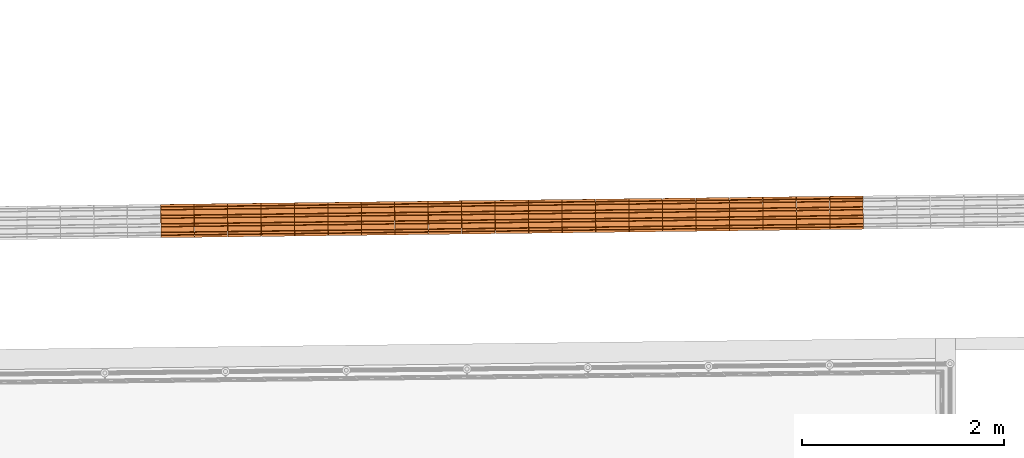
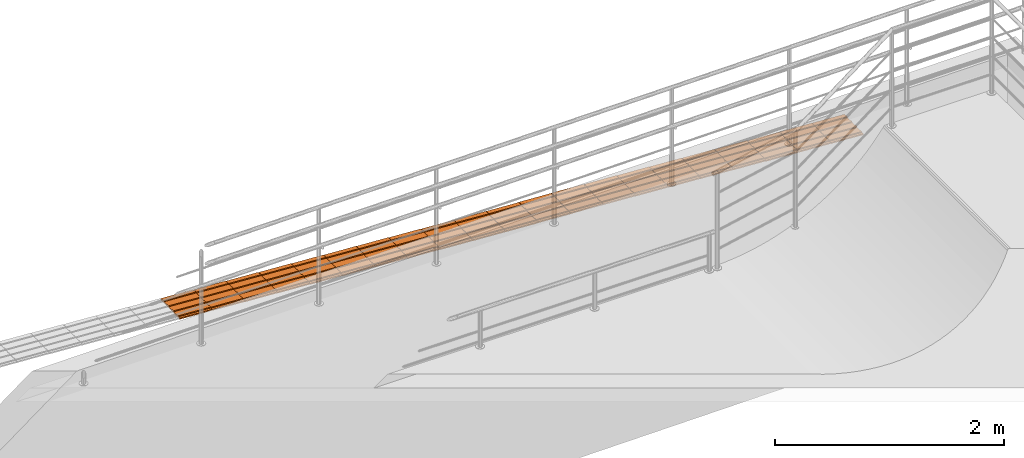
# One storey, part 182 of 237: 21 proxies.
"""IFC2X3 building model written with IfcOpenShell, lengths in millimetres."""

from ifc_helpers import new_model, entity, si_unit, converted_unit, derived_unit, money_unit, direction, frame, origin_with_axes, place, context, subcontext, project, spatial, open_shell, surface_model, source, transform, mapped, type_object, element, save


model = new_model("IFC2X3")

# Units and contexts
model_context = context("Model", 3, precision=0.01, world=origin_with_axes(), true_north=direction((0.0, 1.0)))
body_context = subcontext(model_context, "Body", "Model", "MODEL_VIEW")
ifc_project = project(units=[si_unit("LENGTHUNIT", "METRE", prefix="MILLI"), si_unit("AREAUNIT", "SQUARE_METRE"), si_unit("VOLUMEUNIT", "CUBIC_METRE"), converted_unit("PLANEANGLEUNIT", "DEGREE", entity("IfcPlaneAngleMeasure", 0.0174532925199), si_unit("PLANEANGLEUNIT", "RADIAN"), dimensions=[0, 0, 0, 0, 0, 0, 0]), money_unit("USD"), converted_unit("TIMEUNIT", "Year", entity("IfcTimeMeasure", 31556926.0), si_unit("TIMEUNIT", "SECOND"), dimensions=[0, 0, 1, 0, 0, 0, 0]), si_unit("MASSUNIT", "GRAM", prefix="KILO"), si_unit("THERMODYNAMICTEMPERATUREUNIT", "DEGREE_CELSIUS"), si_unit("LUMINOUSINTENSITYUNIT", "LUMEN"), si_unit("ENERGYUNIT", "JOULE", prefix="MEGA"), derived_unit("THERMALCONDUCTANCEUNIT", [(si_unit("POWERUNIT", "WATT"), 1), (si_unit("LENGTHUNIT", "METRE"), -1), (si_unit("THERMODYNAMICTEMPERATUREUNIT", "KELVIN"), -1)]), derived_unit("SPECIFICHEATCAPACITYUNIT", [(si_unit("ENERGYUNIT", "JOULE"), 1), (si_unit("MASSUNIT", "GRAM", prefix="KILO"), -1), (si_unit("THERMODYNAMICTEMPERATUREUNIT", "KELVIN"), -1)]), derived_unit("MASSDENSITYUNIT", [(si_unit("MASSUNIT", "GRAM", prefix="KILO"), 1), (si_unit("VOLUMEUNIT", "CUBIC_METRE"), -1)])], contexts=[model_context])

# Site, building, storey
site_placement = place(None, origin_with_axes())
site = spatial("IfcSite", under=ifc_project, at=site_placement, Name="Local", CompositionType="ELEMENT")
building_placement = place(site_placement, origin_with_axes())
building = spatial("IfcBuilding", under=site, at=building_placement, Name="Construção", CompositionType="ELEMENT")
storey_placement = place(building_placement, origin_with_axes())
storey = spatial("IfcBuildingStorey", under=building, at=storey_placement, Name="Pavimento Térreo", CompositionType="ELEMENT", Elevation=0.0)

# Proxies
building_element_proxy_type = type_object("IfcBuildingElementProxyType", Name="Piso Direcional 27", PredefinedType="NOTDEFINED")
shared_shape_1 = source(origin_with_axes(), body_context, "Body", "SurfaceModel", [
    surface_model("IfcShellBasedSurfaceModel", [(-0.384424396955, -47.1083673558, 5.49752500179), (328.811712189, -47.1083673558, 28.5171613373), (328.359153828, -41.3085018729, 34.9890474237), (-0.836982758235, -41.3085018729, 11.9694110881)], [open_shell([[[0, 1, 2, 3]]])]),
    surface_model("IfcShellBasedSurfaceModel", [(329.508488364, -153.745925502, 18.5527977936), (330.231552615, 176.091239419, 8.21249725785), (329.30192524, 176.51004954, 21.5067880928), (329.252903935, 154.14820785, 22.2078254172), (328.775834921, 148.767152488, 29.0302301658), (328.726813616, 126.405310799, 29.7312674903), (329.179371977, 120.605445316, 23.2593814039), (329.069074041, 70.2913015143, 24.8367153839), (328.592005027, 64.9102461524, 31.6591201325), (328.542983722, 42.5484044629, 32.360157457), (328.995542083, 36.74853898, 25.8882713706), (328.885244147, -13.5656048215, 27.4656053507), (328.408175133, -18.9466601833, 34.2880100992), (328.359153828, -41.3085018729, 34.9890474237), (328.811712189, -47.1083673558, 28.5171613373), (328.701414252, -97.4225111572, 30.0944953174), (328.224345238, -102.803566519, 36.916900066), (328.175323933, -125.165408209, 37.6179373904), (328.627882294, -130.965273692, 31.1460513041), (328.578860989, -153.327115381, 31.8470886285)], [open_shell([[[0, 1, 2, 3, 4, 5, 6, 7, 8, 9, 10, 11, 12, 13, 14, 15, 16, 17, 18, 19]]])]),
    surface_model("IfcShellBasedSurfaceModel", [(-0.787961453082, -18.9466601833, 11.2683737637), (328.408175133, -18.9466601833, 34.2880100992), (328.885244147, -13.5656048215, 27.4656053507), (-0.310892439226, -13.5656048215, 4.4459690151)], [open_shell([[[0, 1, 2, 3]]])]),
    surface_model("IfcShellBasedSurfaceModel", [(-0.971791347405, -102.803566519, 13.8972637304), (328.224345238, -102.803566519, 36.916900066), (328.701414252, -97.4225111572, 30.0944953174), (-0.494722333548, -97.4225111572, 7.07485898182)], [open_shell([[[0, 1, 2, 3]]])]),
    surface_model("IfcShellBasedSurfaceModel", [(-0.604131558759, 64.9102461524, 8.63948379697), (328.592005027, 64.9102461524, 31.6591201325), (329.069074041, 70.2913015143, 24.8367153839), (-0.127062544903, 70.2913015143, 1.81707904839)], [open_shell([[[0, 1, 2, 3]]])]),
    surface_model("IfcShellBasedSurfaceModel", [(-0.200594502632, 36.74853898, 2.86863503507), (328.995542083, 36.74853898, 25.8882713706), (328.542983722, 42.5484044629, 32.360157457), (-0.653152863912, 42.5484044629, 9.34052112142)], [open_shell([[[0, 1, 2, 3]]])]),
    surface_model("IfcShellBasedSurfaceModel", [(-0.568254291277, -130.965273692, 8.1264149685), (328.627882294, -130.965273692, 31.1460513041), (328.175323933, -125.165408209, 37.6179373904), (-1.02081265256, -125.165408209, 14.5983010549)], [open_shell([[[0, 1, 2, 3]]])]),
    surface_model("IfcShellBasedSurfaceModel", [(0.105788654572, 176.51004954, -1.51284824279), (0.0567673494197, 154.14820785, -0.811810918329), (329.252903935, 154.14820785, 22.2078254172), (329.30192524, 176.51004954, 21.5067880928)], [open_shell([[[0, 1, 2, 3]]])]),
    surface_model("IfcShellBasedSurfaceModel", [(-0.0167646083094, 120.605445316, 0.239745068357), (329.179371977, 120.605445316, 23.2593814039), (328.726813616, 126.405310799, 29.7312674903), (-0.469322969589, 126.405310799, 6.71163115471)], [open_shell([[[0, 1, 2, 3]]])]),
    surface_model("IfcShellBasedSurfaceModel", [(-0.420301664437, 148.767152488, 6.01059383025), (328.775834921, 148.767152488, 29.0302301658), (329.252903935, 154.14820785, 22.2078254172), (0.0567673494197, 154.14820785, -0.811810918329)], [open_shell([[[0, 1, 2, 3]]])]),
    surface_model("IfcShellBasedSurfaceModel", [(-0.200594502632, 36.74853898, 2.86863503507), (-0.310892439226, -13.5656048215, 4.4459690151), (328.885244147, -13.5656048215, 27.4656053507), (328.995542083, 36.74853898, 25.8882713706)], [open_shell([[[0, 1, 2, 3]]])]),
    surface_model("IfcShellBasedSurfaceModel", [(-0.0167646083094, 120.605445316, 0.239745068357), (-0.127062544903, 70.2913015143, 1.81707904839), (329.069074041, 70.2913015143, 24.8367153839), (329.179371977, 120.605445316, 23.2593814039)], [open_shell([[[0, 1, 2, 3]]])]),
    surface_model("IfcShellBasedSurfaceModel", [(-0.420301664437, 148.767152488, 6.01059383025), (-0.469322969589, 126.405310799, 6.71163115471), (328.726813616, 126.405310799, 29.7312674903), (328.775834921, 148.767152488, 29.0302301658)], [open_shell([[[0, 1, 2, 3]]])]),
    surface_model("IfcShellBasedSurfaceModel", [(-0.0167646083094, 120.605445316, 0.239745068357), (-0.469322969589, 126.405310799, 6.71163115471), (-0.420301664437, 148.767152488, 6.01059383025), (0.0567673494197, 154.14820785, -0.811810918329), (0.105788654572, 176.51004954, -1.51284824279), (1.03541602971, 176.091239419, -14.8071390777), (0.312351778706, -153.745925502, -4.46683854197), (-0.61727559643, -153.327115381, 8.82745229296), (-0.568254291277, -130.965273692, 8.1264149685), (-1.02081265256, -125.165408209, 14.5983010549), (-0.971791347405, -102.803566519, 13.8972637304), (-0.494722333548, -97.4225111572, 7.07485898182), (-0.384424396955, -47.1083673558, 5.49752500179), (-0.836982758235, -41.3085018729, 11.9694110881), (-0.787961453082, -18.9466601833, 11.2683737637), (-0.310892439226, -13.5656048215, 4.4459690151), (-0.200594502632, 36.74853898, 2.86863503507), (-0.653152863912, 42.5484044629, 9.34052112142), (-0.604131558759, 64.9102461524, 8.63948379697), (-0.127062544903, 70.2913015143, 1.81707904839)], [open_shell([[[0, 1, 2, 3, 4, 5, 6, 7, 8, 9, 10, 11, 12, 13, 14, 15, 16, 17, 18, 19]]])]),
    surface_model("IfcShellBasedSurfaceModel", [(328.359153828, -41.3085018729, 34.9890474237), (328.408175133, -18.9466601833, 34.2880100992), (-0.787961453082, -18.9466601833, 11.2683737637), (-0.836982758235, -41.3085018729, 11.9694110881)], [open_shell([[[0, 1, 2, 3]]])]),
    surface_model("IfcShellBasedSurfaceModel", [(-0.384424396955, -47.1083673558, 5.49752500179), (-0.494722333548, -97.4225111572, 7.07485898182), (328.701414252, -97.4225111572, 30.0944953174), (328.811712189, -47.1083673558, 28.5171613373)], [open_shell([[[0, 1, 2, 3]]])]),
    surface_model("IfcShellBasedSurfaceModel", [(328.542983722, 42.5484044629, 32.360157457), (328.592005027, 64.9102461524, 31.6591201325), (-0.604131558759, 64.9102461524, 8.63948379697), (-0.653152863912, 42.5484044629, 9.34052112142)], [open_shell([[[0, 1, 2, 3]]])]),
    surface_model("IfcShellBasedSurfaceModel", [(328.175323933, -125.165408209, 37.6179373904), (328.224345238, -102.803566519, 36.916900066), (-0.971791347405, -102.803566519, 13.8972637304), (-1.02081265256, -125.165408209, 14.5983010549)], [open_shell([[[0, 1, 2, 3]]])]),
    surface_model("IfcShellBasedSurfaceModel", [(330.231552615, 176.091239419, 8.21249725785), (1.03541602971, 176.091239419, -14.8071390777), (0.105788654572, 176.51004954, -1.51284824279), (329.30192524, 176.51004954, 21.5067880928)], [open_shell([[[0, 1, 2, 3]]])]),
    surface_model("IfcShellBasedSurfaceModel", [(329.508488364, -153.745925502, 18.5527977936), (0.312351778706, -153.745925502, -4.46683854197), (1.03541602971, 176.091239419, -14.8071390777), (330.231552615, 176.091239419, 8.21249725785)], [open_shell([[[0, 1, 2, 3]]])]),
    surface_model("IfcShellBasedSurfaceModel", [(328.578860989, -153.327115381, 31.8470886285), (328.627882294, -130.965273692, 31.1460513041), (-0.568254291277, -130.965273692, 8.1264149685), (-0.61727559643, -153.327115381, 8.82745229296)], [open_shell([[[0, 1, 2, 3]]])]),
    surface_model("IfcShellBasedSurfaceModel", [(0.312351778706, -153.745925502, -4.46683854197), (329.508488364, -153.745925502, 18.5527977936), (328.578860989, -153.327115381, 31.8470886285), (-0.61727559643, -153.327115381, 8.82745229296)], [open_shell([[[0, 1, 2, 3]]])]),
])
for number, where, z_axis, x_axis, name in (
    (1, (62427.329865, 36805.9068991, -2430.16934255), (0.0, 0.0, 1.0), (-0.999926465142, -0.012127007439, 0.0), "Objeto-0055"),
    (2, (62758.3155723, 36809.9210604, -2455.56931849), (0.0, 0.0, 1.0), (-0.999926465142, -0.012127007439, 0.0), "Objeto-0055"),
):
    element("IfcBuildingElementProxy", number, at=place(storey_placement, frame(where, z_axis=z_axis, x_axis=x_axis)), inside=storey, type_object=building_element_proxy_type, Name=name, context=body_context, shape_type="MappedRepresentation", body=[
        mapped(shared_shape_1, transform((0.0, 0.0, 0.0))),
    ])
shared_shape_2 = source(origin_with_axes(), body_context, "Body", "SurfaceModel", [
    surface_model("IfcShellBasedSurfaceModel", [(-0.395892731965, -47.0888435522, 5.66152983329), (328.800243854, -47.0888435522, 28.6811661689), (328.349100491, -41.2663671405, 35.1328168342), (-0.847036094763, -41.2663671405, 12.1131804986)], [open_shell([[[0, 1, 2, 3]]])]),
    surface_model("IfcShellBasedSurfaceModel", [(329.471050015, -153.76061908, 19.08819113), (330.274423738, 176.038353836, 7.59941164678), (329.344904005, 176.503680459, 20.8921631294), (329.290437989, 154.144428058, 21.6710634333), (328.812061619, 148.787278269, 28.5121642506), (328.757595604, 126.428025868, 29.2910645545), (329.208738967, 120.605549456, 22.8394138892), (329.086190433, 70.2972315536, 24.5919395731), (328.607814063, 64.9400817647, 31.4330403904), (328.553348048, 42.5808293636, 32.2119406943), (329.00449141, 36.758352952, 25.760290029), (328.881942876, -13.5499649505, 27.5128157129), (328.403566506, -18.9071147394, 34.3539165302), (328.349100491, -41.2663671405, 35.1328168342), (328.800243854, -47.0888435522, 28.6811661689), (328.67769532, -97.3971614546, 30.4336918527), (328.19931895, -102.754311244, 37.27479267), (328.144852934, -125.113563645, 38.053692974), (328.595996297, -130.936040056, 31.6020423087), (328.541530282, -153.295292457, 32.3809426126)], [open_shell([[[0, 1, 2, 3, 4, 5, 6, 7, 8, 9, 10, 11, 12, 13, 14, 15, 16, 17, 18, 19]]])]),
    surface_model("IfcShellBasedSurfaceModel", [(-0.792570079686, -18.9071147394, 11.3342801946), (328.403566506, -18.9071147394, 34.3539165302), (328.881942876, -13.5499649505, 27.5128157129), (-0.31419370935, -13.5499649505, 4.49317937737)], [open_shell([[[0, 1, 2, 3]]])]),
    surface_model("IfcShellBasedSurfaceModel", [(-0.996817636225, -102.754311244, 14.2551563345), (328.19931895, -102.754311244, 37.27479267), (328.67769532, -97.3971614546, 30.4336918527), (-0.518441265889, -97.3971614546, 7.41405551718)], [open_shell([[[0, 1, 2, 3]]])]),
    surface_model("IfcShellBasedSurfaceModel", [(-0.588322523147, 64.9400817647, 8.41340405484), (328.607814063, 64.9400817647, 31.4330403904), (329.086190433, 70.2972315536, 24.5919395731), (-0.109946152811, 70.2972315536, 1.57230323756)], [open_shell([[[0, 1, 2, 3]]])]),
    surface_model("IfcShellBasedSurfaceModel", [(-0.191645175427, 36.758352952, 2.74065369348), (329.00449141, 36.758352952, 25.760290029), (328.553348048, 42.5808293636, 32.2119406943), (-0.642788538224, 42.5808293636, 9.19230435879)], [open_shell([[[0, 1, 2, 3]]])]),
    surface_model("IfcShellBasedSurfaceModel", [(-0.600140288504, -130.936040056, 8.5824059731), (328.595996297, -130.936040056, 31.6020423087), (328.144852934, -125.113563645, 38.053692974), (-1.0512836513, -125.113563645, 15.0340566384)], [open_shell([[[0, 1, 2, 3]]])]),
    surface_model("IfcShellBasedSurfaceModel", [(0.148767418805, 176.503680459, -2.1274732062), (0.0943014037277, 154.144428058, -1.34857290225), (329.290437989, 154.144428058, 21.6710634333), (329.344904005, 176.503680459, 20.8921631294)], [open_shell([[[0, 1, 2, 3]]])]),
    surface_model("IfcShellBasedSurfaceModel", [(0.0126023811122, 120.605549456, -0.180222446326), (329.208738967, 120.605549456, 22.8394138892), (328.757595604, 126.428025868, 29.2910645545), (-0.438540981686, 126.428025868, 6.27142821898)], [open_shell([[[0, 1, 2, 3]]])]),
    surface_model("IfcShellBasedSurfaceModel", [(-0.384074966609, 148.787278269, 5.49252791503), (328.812061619, 148.787278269, 28.5121642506), (329.290437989, 154.144428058, 21.6710634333), (0.0943014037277, 154.144428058, -1.34857290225)], [open_shell([[[0, 1, 2, 3]]])]),
    surface_model("IfcShellBasedSurfaceModel", [(-0.191645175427, 36.758352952, 2.74065369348), (-0.31419370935, -13.5499649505, 4.49317937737), (328.881942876, -13.5499649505, 27.5128157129), (329.00449141, 36.758352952, 25.760290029)], [open_shell([[[0, 1, 2, 3]]])]),
    surface_model("IfcShellBasedSurfaceModel", [(0.0126023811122, 120.605549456, -0.180222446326), (-0.109946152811, 70.2972315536, 1.57230323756), (329.086190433, 70.2972315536, 24.5919395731), (329.208738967, 120.605549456, 22.8394138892)], [open_shell([[[0, 1, 2, 3]]])]),
    surface_model("IfcShellBasedSurfaceModel", [(-0.384074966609, 148.787278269, 5.49252791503), (-0.438540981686, 126.428025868, 6.27142821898), (328.757595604, 126.428025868, 29.2910645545), (328.812061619, 148.787278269, 28.5121642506)], [open_shell([[[0, 1, 2, 3]]])]),
    surface_model("IfcShellBasedSurfaceModel", [(0.0126023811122, 120.605549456, -0.180222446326), (-0.438540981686, 126.428025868, 6.27142821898), (-0.384074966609, 148.787278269, 5.49252791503), (0.0943014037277, 154.144428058, -1.34857290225), (0.148767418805, 176.503680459, -2.1274732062), (1.07828715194, 176.038353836, -15.4202246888), (0.274913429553, -153.76061908, -3.93144520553), (-0.654606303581, -153.295292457, 9.36130627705), (-0.600140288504, -130.936040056, 8.5824059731), (-1.0512836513, -125.113563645, 15.0340566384), (-0.996817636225, -102.754311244, 14.2551563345), (-0.518441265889, -97.3971614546, 7.41405551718), (-0.395892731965, -47.0888435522, 5.66152983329), (-0.847036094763, -41.2663671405, 12.1131804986), (-0.792570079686, -18.9071147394, 11.3342801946), (-0.31419370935, -13.5499649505, 4.49317937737), (-0.191645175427, 36.758352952, 2.74065369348), (-0.642788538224, 42.5808293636, 9.19230435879), (-0.588322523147, 64.9400817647, 8.41340405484), (-0.109946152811, 70.2972315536, 1.57230323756)], [open_shell([[[0, 1, 2, 3, 4, 5, 6, 7, 8, 9, 10, 11, 12, 13, 14, 15, 16, 17, 18, 19]]])]),
    surface_model("IfcShellBasedSurfaceModel", [(328.349100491, -41.2663671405, 35.1328168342), (328.403566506, -18.9071147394, 34.3539165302), (-0.792570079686, -18.9071147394, 11.3342801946), (-0.847036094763, -41.2663671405, 12.1131804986)], [open_shell([[[0, 1, 2, 3]]])]),
    surface_model("IfcShellBasedSurfaceModel", [(-0.395892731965, -47.0888435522, 5.66152983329), (-0.518441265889, -97.3971614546, 7.41405551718), (328.67769532, -97.3971614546, 30.4336918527), (328.800243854, -47.0888435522, 28.6811661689)], [open_shell([[[0, 1, 2, 3]]])]),
    surface_model("IfcShellBasedSurfaceModel", [(328.553348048, 42.5808293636, 32.2119406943), (328.607814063, 64.9400817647, 31.4330403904), (-0.588322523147, 64.9400817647, 8.41340405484), (-0.642788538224, 42.5808293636, 9.19230435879)], [open_shell([[[0, 1, 2, 3]]])]),
    surface_model("IfcShellBasedSurfaceModel", [(328.144852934, -125.113563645, 38.053692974), (328.19931895, -102.754311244, 37.27479267), (-0.996817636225, -102.754311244, 14.2551563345), (-1.0512836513, -125.113563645, 15.0340566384)], [open_shell([[[0, 1, 2, 3]]])]),
    surface_model("IfcShellBasedSurfaceModel", [(330.274423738, 176.038353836, 7.59941164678), (1.07828715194, 176.038353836, -15.4202246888), (0.148767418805, 176.503680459, -2.1274732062), (329.344904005, 176.503680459, 20.8921631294)], [open_shell([[[0, 1, 2, 3]]])]),
    surface_model("IfcShellBasedSurfaceModel", [(329.471050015, -153.76061908, 19.08819113), (0.274913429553, -153.76061908, -3.93144520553), (1.07828715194, 176.038353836, -15.4202246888), (330.274423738, 176.038353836, 7.59941164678)], [open_shell([[[0, 1, 2, 3]]])]),
    surface_model("IfcShellBasedSurfaceModel", [(328.541530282, -153.295292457, 32.3809426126), (328.595996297, -130.936040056, 31.6020423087), (-0.600140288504, -130.936040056, 8.5824059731), (-0.654606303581, -153.295292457, 9.36130627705)], [open_shell([[[0, 1, 2, 3]]])]),
    surface_model("IfcShellBasedSurfaceModel", [(0.274913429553, -153.76061908, -3.93144520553), (329.471050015, -153.76061908, 19.08819113), (328.541530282, -153.295292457, 32.3809426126), (-0.654606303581, -153.295292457, 9.36130627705)], [open_shell([[[0, 1, 2, 3]]])]),
])
for number, where, z_axis, x_axis, name in (
    (3, (62095.4414598, 36801.88179, -2405.58476104), (0.0, 0.0, 1.0), (-0.999926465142, -0.012127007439, 0.0), "Objeto-0055"),
    (4, (61102.5443234, 36789.8400335, -2339.87758223), (0.0, 0.0, 1.0), (-0.999926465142, -0.012127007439, 0.0), "Objeto-0055"),
    (5, (60771.4976246, 36785.8251325, -2315.53059206), (0.0, 0.0, 1.0), (-0.999926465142, -0.012127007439, 0.0), "Objeto-0055"),
    (6, (59780.5354361, 36773.8068429, -2239.48157739), (0.0, 0.0, 1.0), (-0.999926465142, -0.012127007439, 0.0), "Objeto-0055"),
    (7, (60109.5830272, 36777.7974989, -2264.27946257), (0.0, 0.0, 1.0), (-0.999926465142, -0.012127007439, 0.0), "Objeto-0055"),
    (8, (60440.5403259, 36781.8113157, -2289.90502731), (0.0, 0.0, 1.0), (-0.999926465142, -0.012127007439, 0.0), "Objeto-0055"),
    (9, (58125.7489426, 36753.737759, -2111.35375367), (0.0, 0.0, 1.0), (-0.999926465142, -0.012127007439, 0.0), "Objeto-0055"),
    (10, (58456.7062413, 36757.7515758, -2136.97931841), (0.0, 0.0, 1.0), (-0.999926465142, -0.012127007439, 0.0), "Objeto-0055"),
    (11, (58787.66354, 36761.7653926, -2162.60488316), (0.0, 0.0, 1.0), (-0.999926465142, -0.012127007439, 0.0), "Objeto-0055"),
    (12, (59118.6208387, 36765.7792093, -2188.2304479), (0.0, 0.0, 1.0), (-0.999926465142, -0.012127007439, 0.0), "Objeto-0055"),
    (13, (59449.5781374, 36769.7930261, -2213.85601265), (0.0, 0.0, 1.0), (-0.999926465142, -0.012127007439, 0.0), "Objeto-0055"),
    (14, (61433.6449398, 36793.8555884, -2363.45345675), (0.0, 0.0, 1.0), (-0.999926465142, -0.012127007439, 0.0), "Objeto-0055"),
    (15, (61764.4350744, 36797.8673779, -2384.01975656), (0.0, 0.0, 1.0), (-0.999926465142, -0.012127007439, 0.0), "Objeto-0055"),
):
    element("IfcBuildingElementProxy", number, at=place(storey_placement, frame(where, z_axis=z_axis, x_axis=x_axis)), inside=storey, type_object=building_element_proxy_type, Name=name, context=body_context, shape_type="MappedRepresentation", body=[
        mapped(shared_shape_2, transform((0.0, 0.0, 0.0))),
    ])
shared_shape_3 = source(origin_with_axes(), body_context, "Body", "SurfaceModel", [
    surface_model("IfcShellBasedSurfaceModel", [(-0.37868846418, -47.1179140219, 5.4154973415), (328.817448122, -47.1179140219, 28.4351336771), (328.364184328, -41.3293805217, 34.9171079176), (-0.831952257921, -41.3293805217, 11.897471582)], [open_shell([[[0, 1, 2, 3]]])]),
    surface_model("IfcShellBasedSurfaceModel", [(329.52720614, -153.737876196, 18.2851211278), (330.210112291, 176.116877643, 8.51910818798), (329.280435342, 176.512427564, 21.8141079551), (329.23413662, 154.149393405, 22.4762105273), (328.757723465, 148.756409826, 29.289236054), (328.711424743, 126.393375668, 29.9513386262), (329.164688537, 120.604842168, 23.4693643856), (329.060516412, 70.2880153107, 24.9590951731), (328.584103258, 64.8950317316, 31.7721206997), (328.537804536, 42.531997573, 32.4342232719), (328.991068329, 36.7434640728, 25.9522490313), (328.886896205, -13.573362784, 27.4419798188), (328.41048305, -18.9663463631, 34.2550053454), (328.364184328, -41.3293805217, 34.9171079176), (328.817448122, -47.1179140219, 28.4351336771), (328.713275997, -97.4347408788, 29.9248644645), (328.236862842, -102.827724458, 36.7378899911), (328.19056412, -125.190758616, 37.3999925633), (328.643827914, -130.979292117, 30.9180183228), (328.597529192, -153.342326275, 31.580120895)], [open_shell([[[0, 1, 2, 3, 4, 5, 6, 7, 8, 9, 10, 11, 12, 13, 14, 15, 16, 17, 18, 19]]])]),
    surface_model("IfcShellBasedSurfaceModel", [(-0.785653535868, -18.9663463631, 11.2353690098), (328.41048305, -18.9663463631, 34.2550053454), (328.886896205, -13.573362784, 27.4419798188), (-0.3092403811, -13.573362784, 4.42234348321)], [open_shell([[[0, 1, 2, 3]]])]),
    surface_model("IfcShellBasedSurfaceModel", [(-0.959273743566, -102.827724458, 13.7182536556), (328.236862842, -102.827724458, 36.7378899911), (328.713275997, -97.4347408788, 29.9248644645), (-0.482860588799, -97.4347408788, 6.90522812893)], [open_shell([[[0, 1, 2, 3]]])]),
    surface_model("IfcShellBasedSurfaceModel", [(-0.612033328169, 64.8950317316, 8.75248436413), (328.584103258, 64.8950317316, 31.7721206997), (329.060516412, 70.2880153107, 24.9590951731), (-0.135620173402, 70.2880153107, 1.9394588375)], [open_shell([[[0, 1, 2, 3]]])]),
    surface_model("IfcShellBasedSurfaceModel", [(-0.205068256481, 36.7434640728, 2.93261269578), (328.991068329, 36.7434640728, 25.9522490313), (328.537804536, 42.531997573, 32.4342232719), (-0.658332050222, 42.531997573, 9.41458693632)], [open_shell([[[0, 1, 2, 3]]])]),
    surface_model("IfcShellBasedSurfaceModel", [(-0.552308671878, -130.979292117, 7.89838198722), (328.643827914, -130.979292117, 30.9180183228), (328.19056412, -125.190758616, 37.3999925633), (-1.00557246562, -125.190758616, 14.3803562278)], [open_shell([[[0, 1, 2, 3]]])]),
    surface_model("IfcShellBasedSurfaceModel", [(0.0842987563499, 176.512427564, -1.20552838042), (0.0380000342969, 154.149393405, -0.543425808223), (329.23413662, 154.149393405, 22.4762105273), (329.280435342, 176.512427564, 21.8141079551)], [open_shell([[[0, 1, 2, 3]]])]),
    surface_model("IfcShellBasedSurfaceModel", [(-0.0314480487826, 120.604842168, 0.449728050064), (329.164688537, 120.604842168, 23.4693643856), (328.711424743, 126.393375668, 29.9513386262), (-0.484711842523, 126.393375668, 6.9317022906)], [open_shell([[[0, 1, 2, 3]]])]),
    surface_model("IfcShellBasedSurfaceModel", [(-0.43841312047, 148.756409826, 6.26959971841), (328.757723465, 148.756409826, 29.289236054), (329.23413662, 154.149393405, 22.4762105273), (0.0380000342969, 154.149393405, -0.543425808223)], [open_shell([[[0, 1, 2, 3]]])]),
    surface_model("IfcShellBasedSurfaceModel", [(-0.205068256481, 36.7434640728, 2.93261269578), (-0.3092403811, -13.573362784, 4.42234348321), (328.886896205, -13.573362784, 27.4419798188), (328.991068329, 36.7434640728, 25.9522490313)], [open_shell([[[0, 1, 2, 3]]])]),
    surface_model("IfcShellBasedSurfaceModel", [(-0.0314480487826, 120.604842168, 0.449728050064), (-0.135620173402, 70.2880153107, 1.9394588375), (329.060516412, 70.2880153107, 24.9590951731), (329.164688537, 120.604842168, 23.4693643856)], [open_shell([[[0, 1, 2, 3]]])]),
    surface_model("IfcShellBasedSurfaceModel", [(-0.43841312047, 148.756409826, 6.26959971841), (-0.484711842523, 126.393375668, 6.9317022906), (328.711424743, 126.393375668, 29.9513386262), (328.757723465, 148.756409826, 29.289236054)], [open_shell([[[0, 1, 2, 3]]])]),
    surface_model("IfcShellBasedSurfaceModel", [(-0.0314480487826, 120.604842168, 0.449728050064), (-0.484711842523, 126.393375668, 6.9317022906), (-0.43841312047, 148.756409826, 6.26959971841), (0.0380000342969, 154.149393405, -0.543425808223), (0.0842987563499, 176.512427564, -1.20552838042), (1.01397570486, 176.116877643, -14.5005281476), (0.331069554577, -153.737876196, -4.73451520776), (-0.598607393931, -153.342326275, 8.56048455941), (-0.552308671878, -130.979292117, 7.89838198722), (-1.00557246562, -125.190758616, 14.3803562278), (-0.959273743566, -102.827724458, 13.7182536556), (-0.482860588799, -97.4347408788, 6.90522812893), (-0.37868846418, -47.1179140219, 5.4154973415), (-0.831952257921, -41.3293805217, 11.897471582), (-0.785653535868, -18.9663463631, 11.2353690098), (-0.3092403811, -13.573362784, 4.42234348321), (-0.205068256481, 36.7434640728, 2.93261269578), (-0.658332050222, 42.531997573, 9.41458693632), (-0.612033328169, 64.8950317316, 8.75248436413), (-0.135620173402, 70.2880153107, 1.9394588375)], [open_shell([[[0, 1, 2, 3, 4, 5, 6, 7, 8, 9, 10, 11, 12, 13, 14, 15, 16, 17, 18, 19]]])]),
    surface_model("IfcShellBasedSurfaceModel", [(328.364184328, -41.3293805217, 34.9171079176), (328.41048305, -18.9663463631, 34.2550053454), (-0.785653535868, -18.9663463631, 11.2353690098), (-0.831952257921, -41.3293805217, 11.897471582)], [open_shell([[[0, 1, 2, 3]]])]),
    surface_model("IfcShellBasedSurfaceModel", [(-0.37868846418, -47.1179140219, 5.4154973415), (-0.482860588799, -97.4347408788, 6.90522812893), (328.713275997, -97.4347408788, 29.9248644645), (328.817448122, -47.1179140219, 28.4351336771)], [open_shell([[[0, 1, 2, 3]]])]),
    surface_model("IfcShellBasedSurfaceModel", [(328.537804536, 42.531997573, 32.4342232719), (328.584103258, 64.8950317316, 31.7721206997), (-0.612033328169, 64.8950317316, 8.75248436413), (-0.658332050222, 42.531997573, 9.41458693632)], [open_shell([[[0, 1, 2, 3]]])]),
    surface_model("IfcShellBasedSurfaceModel", [(328.19056412, -125.190758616, 37.3999925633), (328.236862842, -102.827724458, 36.7378899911), (-0.959273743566, -102.827724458, 13.7182536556), (-1.00557246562, -125.190758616, 14.3803562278)], [open_shell([[[0, 1, 2, 3]]])]),
    surface_model("IfcShellBasedSurfaceModel", [(330.210112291, 176.116877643, 8.51910818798), (1.01397570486, 176.116877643, -14.5005281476), (0.0842987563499, 176.512427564, -1.20552838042), (329.280435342, 176.512427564, 21.8141079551)], [open_shell([[[0, 1, 2, 3]]])]),
    surface_model("IfcShellBasedSurfaceModel", [(329.52720614, -153.737876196, 18.2851211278), (0.331069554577, -153.737876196, -4.73451520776), (1.01397570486, 176.116877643, -14.5005281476), (330.210112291, 176.116877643, 8.51910818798)], [open_shell([[[0, 1, 2, 3]]])]),
    surface_model("IfcShellBasedSurfaceModel", [(328.597529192, -153.342326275, 31.580120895), (328.643827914, -130.979292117, 30.9180183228), (-0.552308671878, -130.979292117, 7.89838198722), (-0.598607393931, -153.342326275, 8.56048455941)], [open_shell([[[0, 1, 2, 3]]])]),
    surface_model("IfcShellBasedSurfaceModel", [(0.331069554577, -153.737876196, -4.73451520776), (329.52720614, -153.737876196, 18.2851211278), (328.597529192, -153.342326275, 31.580120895), (-0.598607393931, -153.342326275, 8.56048455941)], [open_shell([[[0, 1, 2, 3]]])]),
])
for number, where, z_axis, x_axis, name in (
    (16, (63420.6977018, 36817.9543641, -2505.58067227), (0.0, 0.0, 1.0), (-0.999926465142, -0.012127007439, 0.0), "Objeto-0055"),
    (17, (64413.8250458, 36829.9989125, -2580.7116465), (0.0, 0.0, 1.0), (-0.999926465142, -0.012127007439, 0.0), "Objeto-0055"),
    (18, (64082.5798854, 36825.9816046, -2557.66386557), (0.0, 0.0, 1.0), (-0.999926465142, -0.012127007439, 0.0), "Objeto-0055"),
    (19, (63089.2987026, 36813.9351905, -2480.57325102), (0.0, 0.0, 1.0), (-0.999926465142, -0.012127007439, 0.0), "Objeto-0055"),
    (20, (63751.9876752, 36821.9722156, -2530.68791233), (0.0, 0.0, 1.0), (-0.999926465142, -0.012127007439, 0.0), "Objeto-0055"),
    (21, (64745.1598321, 36834.0173074, -2604.83198378), (0.0, 0.0, 1.0), (-0.999926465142, -0.012127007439, 0.0), "Objeto-0055"),
):
    element("IfcBuildingElementProxy", number, at=place(storey_placement, frame(where, z_axis=z_axis, x_axis=x_axis)), inside=storey, type_object=building_element_proxy_type, Name=name, context=body_context, shape_type="MappedRepresentation", body=[
        mapped(shared_shape_3, transform((0.0, 0.0, 0.0))),
    ])

save(model, "model.ifc")
